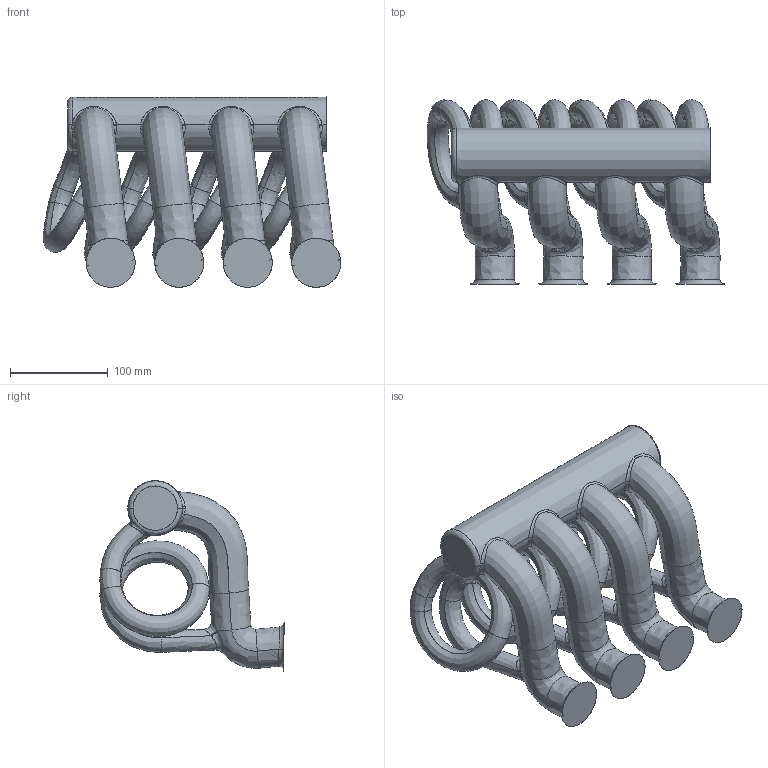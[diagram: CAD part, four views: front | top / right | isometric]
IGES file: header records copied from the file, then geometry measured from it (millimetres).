
Start section: SolidWorks IGES file using analytic representation for surfaces
Global section: file name: C:\Users\hoyt\Downloads\modified final_inverse.IGS; native system: SolidWorks 2016; preprocessor: SolidWorks 2016; author: hoyt; date: 170419.062949; units: millimetre
Bounding box: 303.9 x 188.14 x 194.71 mm (x, y, z)
Surface area: 292678.2 mm2 (no closed solid volume)
Topology: 0 solids, 0 shells, 145 faces, 2349 edges, 2348 vertices
Faces by surface type: bspline 142, revolution 3
